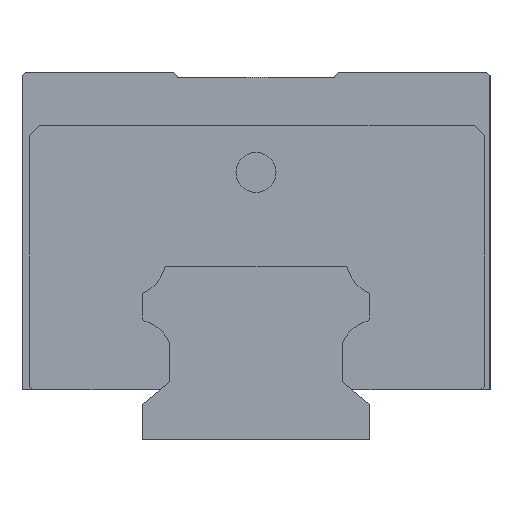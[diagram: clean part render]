
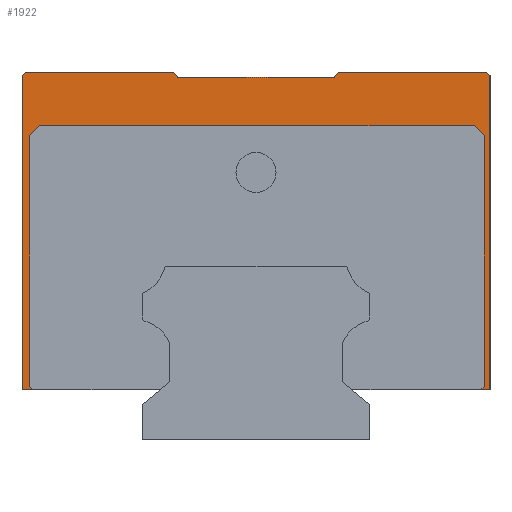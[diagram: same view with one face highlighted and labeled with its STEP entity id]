
A CAD part, left-side view. The second image highlights one B-rep face of the part: STEP entity #1922.
In plain terms, the highlighted planar face has unit normal (-1, 0, 0).
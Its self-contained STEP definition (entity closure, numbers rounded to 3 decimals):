
#23 = EDGE_CURVE ( 'NONE', #3919, #4582, #5509, .T. ) ;
#28 = VECTOR ( 'NONE', #4559, 1000. ) ;
#58 = CARTESIAN_POINT ( 'NONE',  ( -39.5, -11.667, 54.25 ) ) ;
#114 = PLANE ( 'NONE',  #4240 ) ;
#153 = CARTESIAN_POINT ( 'NONE',  ( -39.5, 33.872, 45.5 ) ) ;
#185 = DIRECTION ( 'NONE',  ( 0., 1., 0. ) ) ;
#193 = ORIENTED_EDGE ( 'NONE', *, *, #3987, .F. ) ;
#205 = CARTESIAN_POINT ( 'NONE',  ( -39.5, -32.628, 47. ) ) ;
#211 = EDGE_CURVE ( 'NONE', #440, #1044, #3597, .T. ) ;
#219 = VERTEX_POINT ( 'NONE', #4915 ) ;
#288 = CARTESIAN_POINT ( 'NONE',  ( -39.5, 32.372, 47. ) ) ;
#335 = LINE ( 'NONE', #3512, #3857 ) ;
#339 = DIRECTION ( 'NONE',  ( 0., 0.707, 0.707 ) ) ;
#440 = VERTEX_POINT ( 'NONE', #1664 ) ;
#441 = EDGE_CURVE ( 'NONE', #1044, #219, #2172, .T. ) ;
#502 = VECTOR ( 'NONE', #5724, 1000. ) ;
#504 = CARTESIAN_POINT ( 'NONE',  ( -39.5, -34.128, 8. ) ) ;
#616 = EDGE_CURVE ( 'NONE', #5419, #4866, #4523, .T. ) ;
#666 = ORIENTED_EDGE ( 'NONE', *, *, #1672, .T. ) ;
#816 = CARTESIAN_POINT ( 'NONE',  ( -39.5, -34.128, 8. ) ) ;
#818 = DIRECTION ( 'NONE',  ( 0., 0.707, -0.707 ) ) ;
#853 = CARTESIAN_POINT ( 'NONE',  ( -39.5, -35., 7.5 ) ) ;
#954 = ORIENTED_EDGE ( 'NONE', *, *, #4797, .T. ) ;
#960 = CARTESIAN_POINT ( 'NONE',  ( -39.5, -11.667, 54.25 ) ) ;
#971 = EDGE_CURVE ( 'NONE', #4374, #3169, #4273, .T. ) ;
#974 = VECTOR ( 'NONE', #1936, 1000. ) ;
#1044 = VERTEX_POINT ( 'NONE', #5351 ) ;
#1045 = CARTESIAN_POINT ( 'NONE',  ( -39.5, -33.628, 7.5 ) ) ;
#1181 = EDGE_CURVE ( 'NONE', #4374, #1279, #4647, .T. ) ;
#1222 = DIRECTION ( 'NONE',  ( 0., 1., 0. ) ) ;
#1279 = VERTEX_POINT ( 'NONE', #4181 ) ;
#1331 = VERTEX_POINT ( 'NONE', #2992 ) ;
#1397 = ORIENTED_EDGE ( 'NONE', *, *, #5322, .F. ) ;
#1418 = CARTESIAN_POINT ( 'NONE',  ( -39.5, 32.372, 47. ) ) ;
#1426 = VECTOR ( 'NONE', #1482, 1000. ) ;
#1461 = FACE_OUTER_BOUND ( 'NONE', #5504, .T. ) ;
#1482 = DIRECTION ( 'NONE',  ( 0., 0.707, 0.707 ) ) ;
#1485 = CARTESIAN_POINT ( 'NONE',  ( -39.5, -35., 55. ) ) ;
#1597 = CARTESIAN_POINT ( 'NONE',  ( -39.5, -12.296, 55. ) ) ;
#1632 = ORIENTED_EDGE ( 'NONE', *, *, #971, .T. ) ;
#1650 = CARTESIAN_POINT ( 'NONE',  ( -39.5, -33.628, 7.5 ) ) ;
#1664 = CARTESIAN_POINT ( 'NONE',  ( -39.5, 33.872, 8. ) ) ;
#1672 = EDGE_CURVE ( 'NONE', #1331, #3345, #2139, .T. ) ;
#1726 = VECTOR ( 'NONE', #3645, 1000. ) ;
#1748 = ORIENTED_EDGE ( 'NONE', *, *, #211, .F. ) ;
#1773 = CARTESIAN_POINT ( 'NONE',  ( -39.5, -34.128, 45.5 ) ) ;
#1807 = VECTOR ( 'NONE', #818, 1000. ) ;
#1833 = CARTESIAN_POINT ( 'NONE',  ( -39.5, 33.872, 8. ) ) ;
#1922 = ADVANCED_FACE ( 'NONE', ( #1461 ), #114, .F. ) ;
#1936 = DIRECTION ( 'NONE',  ( 0., -0.707, 0.707 ) ) ;
#1947 = VERTEX_POINT ( 'NONE', #1650 ) ;
#1956 = LINE ( 'NONE', #3277, #5537 ) ;
#2004 = VECTOR ( 'NONE', #5259, 1000. ) ;
#2093 = CARTESIAN_POINT ( 'NONE',  ( -39.5, -12.296, 55. ) ) ;
#2131 = CARTESIAN_POINT ( 'NONE',  ( -39.5, 35., 7.5 ) ) ;
#2139 = LINE ( 'NONE', #5678, #2832 ) ;
#2172 = LINE ( 'NONE', #4816, #5292 ) ;
#2324 = CARTESIAN_POINT ( 'NONE',  ( -39.5, 34.5, 55. ) ) ;
#2409 = ORIENTED_EDGE ( 'NONE', *, *, #3128, .F. ) ;
#2458 = ORIENTED_EDGE ( 'NONE', *, *, #1181, .F. ) ;
#2467 = VERTEX_POINT ( 'NONE', #4298 ) ;
#2554 = VECTOR ( 'NONE', #339, 1000. ) ;
#2619 = EDGE_CURVE ( 'NONE', #5377, #3718, #5324, .T. ) ;
#2683 = DIRECTION ( 'NONE',  ( 0., -0.707, -0.707 ) ) ;
#2699 = LINE ( 'NONE', #5787, #502 ) ;
#2832 = VECTOR ( 'NONE', #5701, 1000. ) ;
#2849 = LINE ( 'NONE', #5460, #1426 ) ;
#2859 = VECTOR ( 'NONE', #185, 1000. ) ;
#2928 = CARTESIAN_POINT ( 'NONE',  ( -39.5, 12.296, 55. ) ) ;
#2966 = LINE ( 'NONE', #288, #1807 ) ;
#2992 = CARTESIAN_POINT ( 'NONE',  ( -39.5, 11.667, 54.25 ) ) ;
#3128 = EDGE_CURVE ( 'NONE', #1947, #5419, #5488, .T. ) ;
#3154 = VERTEX_POINT ( 'NONE', #2324 ) ;
#3169 = VERTEX_POINT ( 'NONE', #960 ) ;
#3263 = CARTESIAN_POINT ( 'NONE',  ( -39.5, -34.128, 45.5 ) ) ;
#3277 = CARTESIAN_POINT ( 'NONE',  ( -39.5, 35., 55. ) ) ;
#3345 = VERTEX_POINT ( 'NONE', #2928 ) ;
#3421 = EDGE_CURVE ( 'NONE', #3154, #2467, #335, .T. ) ;
#3446 = DIRECTION ( 'NONE',  ( 0., 0.643, -0.766 ) ) ;
#3488 = ORIENTED_EDGE ( 'NONE', *, *, #616, .F. ) ;
#3505 = CARTESIAN_POINT ( 'NONE',  ( -39.5, -35., 55. ) ) ;
#3512 = CARTESIAN_POINT ( 'NONE',  ( -39.5, 34.5, 55. ) ) ;
#3518 = LINE ( 'NONE', #2131, #3683 ) ;
#3597 = LINE ( 'NONE', #1833, #4360 ) ;
#3607 = ORIENTED_EDGE ( 'NONE', *, *, #441, .F. ) ;
#3645 = DIRECTION ( 'NONE',  ( 0., 0., 1. ) ) ;
#3670 = VECTOR ( 'NONE', #3715, 1000. ) ;
#3683 = VECTOR ( 'NONE', #5306, 1000. ) ;
#3705 = DIRECTION ( 'NONE',  ( 1., 0., 0. ) ) ;
#3715 = DIRECTION ( 'NONE',  ( 0., -1., 0. ) ) ;
#3718 = VERTEX_POINT ( 'NONE', #853 ) ;
#3782 = VERTEX_POINT ( 'NONE', #153 ) ;
#3831 = EDGE_CURVE ( 'NONE', #3718, #1947, #4667, .T. ) ;
#3857 = VECTOR ( 'NONE', #3943, 1000. ) ;
#3919 = VERTEX_POINT ( 'NONE', #205 ) ;
#3943 = DIRECTION ( 'NONE',  ( 0., 0.707, -0.707 ) ) ;
#3987 = EDGE_CURVE ( 'NONE', #4582, #3782, #2966, .T. ) ;
#3988 = ORIENTED_EDGE ( 'NONE', *, *, #3421, .T. ) ;
#4014 = EDGE_CURVE ( 'NONE', #3782, #440, #2699, .T. ) ;
#4037 = VECTOR ( 'NONE', #3446, 1000. ) ;
#4077 = LINE ( 'NONE', #58, #4627 ) ;
#4181 = CARTESIAN_POINT ( 'NONE',  ( -39.5, -34.5, 55. ) ) ;
#4213 = CARTESIAN_POINT ( 'NONE',  ( -39.5, -32.628, 47. ) ) ;
#4240 = AXIS2_PLACEMENT_3D ( 'NONE', #1485, #3705, #5494 ) ;
#4253 = ORIENTED_EDGE ( 'NONE', *, *, #3831, .F. ) ;
#4273 = LINE ( 'NONE', #2093, #4037 ) ;
#4298 = CARTESIAN_POINT ( 'NONE',  ( -39.5, 35., 54.5 ) ) ;
#4336 = ORIENTED_EDGE ( 'NONE', *, *, #4415, .F. ) ;
#4360 = VECTOR ( 'NONE', #2683, 1000. ) ;
#4374 = VERTEX_POINT ( 'NONE', #1597 ) ;
#4387 = EDGE_CURVE ( 'NONE', #4866, #3919, #4889, .T. ) ;
#4415 = EDGE_CURVE ( 'NONE', #219, #2467, #3518, .T. ) ;
#4523 = LINE ( 'NONE', #504, #1726 ) ;
#4559 = DIRECTION ( 'NONE',  ( 0., 1., 0. ) ) ;
#4582 = VERTEX_POINT ( 'NONE', #1418 ) ;
#4613 = CARTESIAN_POINT ( 'NONE',  ( -39.5, -35., 7.5 ) ) ;
#4627 = VECTOR ( 'NONE', #5430, 1000. ) ;
#4647 = LINE ( 'NONE', #5001, #3670 ) ;
#4651 = DIRECTION ( 'NONE',  ( 0., -1., 0. ) ) ;
#4667 = LINE ( 'NONE', #4613, #28 ) ;
#4725 = ORIENTED_EDGE ( 'NONE', *, *, #4014, .F. ) ;
#4797 = EDGE_CURVE ( 'NONE', #3169, #1331, #4077, .T. ) ;
#4816 = CARTESIAN_POINT ( 'NONE',  ( -39.5, 14.65, 7.5 ) ) ;
#4835 = EDGE_CURVE ( 'NONE', #5377, #1279, #2849, .T. ) ;
#4851 = ORIENTED_EDGE ( 'NONE', *, *, #4835, .T. ) ;
#4866 = VERTEX_POINT ( 'NONE', #3263 ) ;
#4889 = LINE ( 'NONE', #1773, #2554 ) ;
#4915 = CARTESIAN_POINT ( 'NONE',  ( -39.5, 35., 7.5 ) ) ;
#5001 = CARTESIAN_POINT ( 'NONE',  ( -39.5, 35., 55. ) ) ;
#5056 = ORIENTED_EDGE ( 'NONE', *, *, #2619, .F. ) ;
#5259 = DIRECTION ( 'NONE',  ( 0., 0., -1. ) ) ;
#5292 = VECTOR ( 'NONE', #1222, 1000. ) ;
#5306 = DIRECTION ( 'NONE',  ( 0., 0., 1. ) ) ;
#5322 = EDGE_CURVE ( 'NONE', #3154, #3345, #1956, .T. ) ;
#5324 = LINE ( 'NONE', #3505, #2004 ) ;
#5351 = CARTESIAN_POINT ( 'NONE',  ( -39.5, 33.372, 7.5 ) ) ;
#5377 = VERTEX_POINT ( 'NONE', #5506 ) ;
#5419 = VERTEX_POINT ( 'NONE', #816 ) ;
#5430 = DIRECTION ( 'NONE',  ( 0., 1., 0. ) ) ;
#5448 = ORIENTED_EDGE ( 'NONE', *, *, #23, .F. ) ;
#5460 = CARTESIAN_POINT ( 'NONE',  ( -39.5, -35., 54.5 ) ) ;
#5488 = LINE ( 'NONE', #1045, #974 ) ;
#5494 = DIRECTION ( 'NONE',  ( 0., 1., 0. ) ) ;
#5504 = EDGE_LOOP ( 'NONE', ( #3488, #2409, #4253, #5056, #4851, #2458, #1632, #954, #666, #1397, #3988, #4336, #3607, #1748, #4725, #193, #5448, #5719 ) ) ;
#5506 = CARTESIAN_POINT ( 'NONE',  ( -39.5, -35., 54.5 ) ) ;
#5509 = LINE ( 'NONE', #4213, #2859 ) ;
#5537 = VECTOR ( 'NONE', #4651, 1000. ) ;
#5678 = CARTESIAN_POINT ( 'NONE',  ( -39.5, 11.667, 54.25 ) ) ;
#5701 = DIRECTION ( 'NONE',  ( 0., 0.643, 0.766 ) ) ;
#5719 = ORIENTED_EDGE ( 'NONE', *, *, #4387, .F. ) ;
#5724 = DIRECTION ( 'NONE',  ( 0., 0., -1. ) ) ;
#5787 = CARTESIAN_POINT ( 'NONE',  ( -39.5, 33.872, 45.5 ) ) ;
